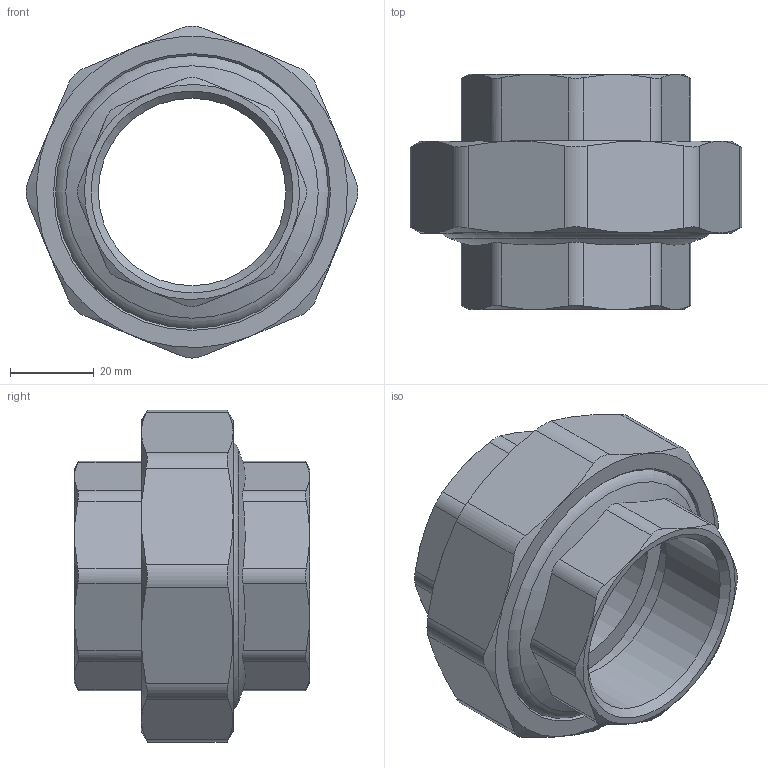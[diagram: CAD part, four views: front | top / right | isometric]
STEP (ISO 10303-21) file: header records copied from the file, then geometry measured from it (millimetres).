
FILE_DESCRIPTION(('STEP AP203'), '1');
FILE_NAME('覆.302612.011.000 捘 - VTr.340.N.0008', '2024-06-28T06:37:03', ('Boss'), (''), 'C3D Converter', 'C3D Toolkit', '');
FILE_SCHEMA(('CONFIG_CONTROL_DESIGN'));
Length unit declared in the file: millimetre
Products named in the file (1): ВР.302612.011.000 СБ
Bounding box: 79.48 x 56.3 x 79.48 mm (x, y, z)
Volume: 81970.2 mm3; surface area: 31857.6 mm2
Topology: 1 solids, 3 shells, 213 faces, 561 edges, 367 vertices
Faces by surface type: plane 83, extrusion 71, cylinder 31, cone 23, torus 5
Full cylindrical faces by diameter (mm): 44.846 x2, 54 x1, 55.5 x1, 56.5 x1, 62 x1, 62.753 x1
Entity records: 9352 total; most frequent: CARTESIAN_POINT 4696, ORIENTED_EDGE 1054, DIRECTION 684, EDGE_CURVE 527, VERTEX_POINT 359, VECTOR 318, B_SPLINE_CURVE_WITH_KNOTS 303, LINE 247
